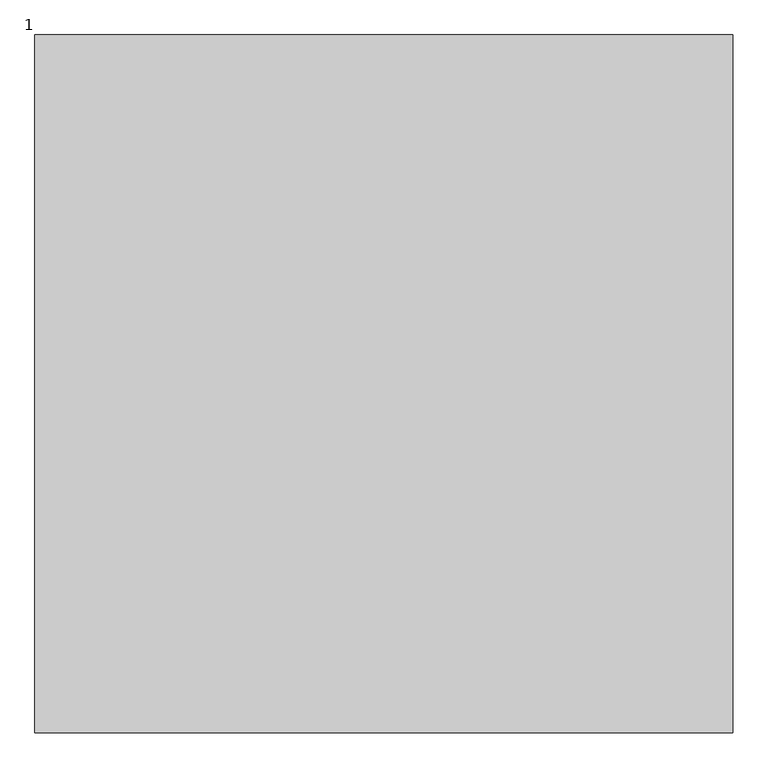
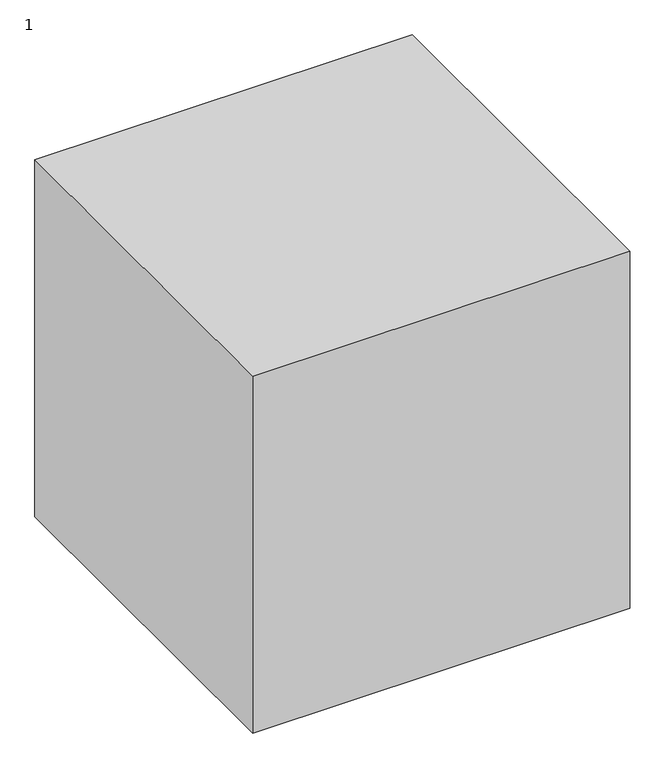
"""IFC4 building model written with IfcOpenShell, lengths in millimetres: proxy geometry, 12221112 : 1."""

from ifc_helpers import new_model, si_unit, origin, origin_with_axes, place, context, project, spatial, polyline, outline, extrude, source, transform, mapped, element, save


def proxy_1_2479e5df(model_context):
    return source(origin(), model_context, "Body", "SweptSolid", [
        extrude(outline(polyline([(3692.0243292, 7335.2294472), (3692.0243292, 6335.2294472), (2692.0243292, 6335.2294472), (2692.0243292, 7335.2294472), (3692.0243292, 7335.2294472)])), origin_with_axes(), (0.0, 0.0, 1.0), 1000.0),
    ])


if __name__ == "__main__":
    model = new_model("IFC4")
    model_context = context("Model", 3, world=origin())
    ifc_project = project(units=[si_unit("LENGTHUNIT", "METRE", prefix="MILLI")], contexts=[model_context])
    site = spatial("IfcSite", under=ifc_project)
    building = spatial("IfcBuilding", under=site)
    placement = place(None, origin())
    proxy_1_shape = proxy_1_2479e5df(model_context)
    element("IfcBuildingElementProxy", 1, Name="12221112 : 1", ObjectType="12221112 : 1", at=placement, inside=building, context=model_context, shape_type="MappedRepresentation", body=[
        mapped(proxy_1_shape, transform((0.0, 0.0, 0.0), x_axis=(1.0, 0.0, 0.0), y_axis=(0.0, 1.0, 0.0), z_axis=(0.0, 0.0, 1.0))),
    ])
    save(model, "model.ifc")
